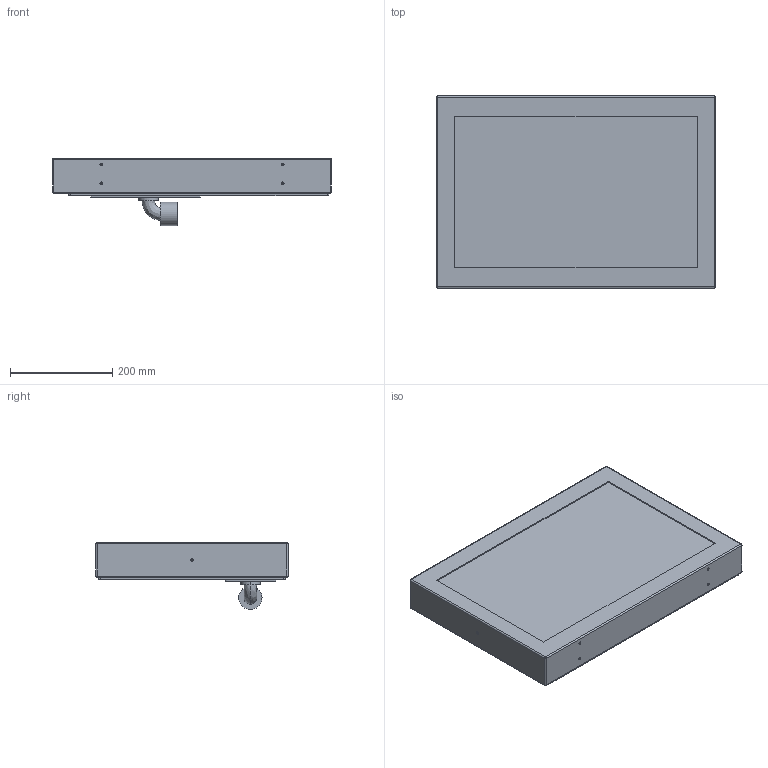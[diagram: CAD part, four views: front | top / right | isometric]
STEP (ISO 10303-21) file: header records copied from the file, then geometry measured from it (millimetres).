
FILE_DESCRIPTION (( 'STEP AP214' ), '1' );
FILE_NAME ('22 inch Universal Mount Monitor, HIS-UM22-xxxB&C, with KVM2EXT and CP-CON.STEP', '2019-11-18T20:49:42', ( '' ), ( '' ), 'SwSTEP 2.0', 'SolidWorks 2017', '' );
FILE_SCHEMA (( 'AUTOMOTIVE_DESIGN' ));
Length unit declared in the file: inch
Products named in the file (1): 22 inch Universal Mount Monitor, HIS-UM22-xxxB&C, with KVM2EXT and CP-CON
Bounding box: 546.1 x 376.94 x 131.78 mm (x, y, z)
Volume: 14817529.7 mm3; surface area: 562168.3 mm2
Topology: 1 solids, 1 shells, 103 faces, 246 edges, 134 vertices
Faces by surface type: cylinder 44, plane 29, cone 20, sphere 8, bspline 2
Entity records: 3657 total; most frequent: CARTESIAN_POINT 516, DIRECTION 512, ORIENTED_EDGE 436, EDGE_CURVE 218, AXIS2_PLACEMENT_3D 194, VERTEX_POINT 134, VECTOR 124, LINE 124
